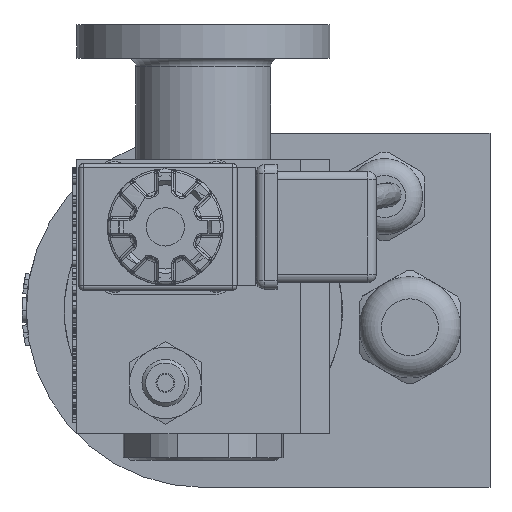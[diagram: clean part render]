
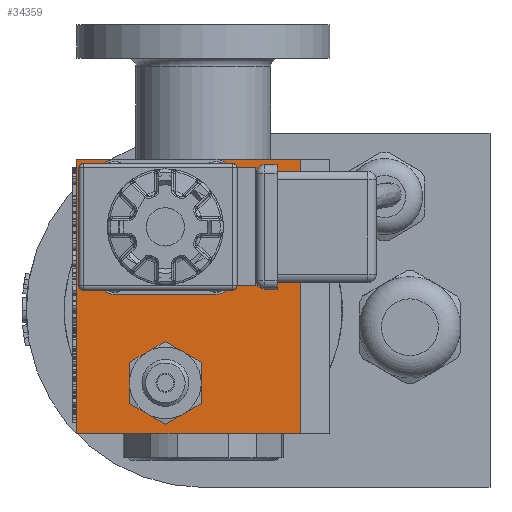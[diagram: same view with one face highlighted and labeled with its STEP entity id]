
A CAD part, left-side view. The second image highlights one B-rep face of the part: STEP entity #34359.
In plain terms, the highlighted planar face has unit normal (-1, 0, 0).
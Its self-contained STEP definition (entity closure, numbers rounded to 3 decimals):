
#820=CIRCLE('',#35783,8.5);
#821=CIRCLE('',#35785,8.5);
#822=CIRCLE('',#35787,8.5);
#823=CIRCLE('',#35789,8.5);
#824=CIRCLE('',#35791,8.5);
#825=CIRCLE('',#35793,8.5);
#945=CIRCLE('',#36089,3.975);
#946=CIRCLE('',#36090,3.975);
#947=CIRCLE('',#36091,3.975);
#948=CIRCLE('',#36092,3.975);
#2622=FACE_BOUND('',#7006,.T.);
#2623=FACE_BOUND('',#7007,.T.);
#3457=PLANE('',#36088);
#4899=FACE_OUTER_BOUND('',#7005,.T.);
#7005=EDGE_LOOP('',(#29773,#29774,#29775,#29776));
#7006=EDGE_LOOP('',(#29777,#29778,#29779,#29780,#29781,#29782));
#7007=EDGE_LOOP('',(#29783,#29784,#29785,#29786,#29787,#29788,#29789,#29790));
#9740=LINE('',#55802,#12549);
#10026=LINE('',#61988,#12835);
#10030=LINE('',#61994,#12839);
#10051=LINE('',#62160,#12860);
#10102=LINE('',#62623,#12911);
#10103=LINE('',#62627,#12912);
#10104=LINE('',#62631,#12913);
#10105=LINE('',#62635,#12914);
#12549=VECTOR('',#40637,10.);
#12835=VECTOR('',#41583,10.);
#12839=VECTOR('',#41589,10.);
#12860=VECTOR('',#41756,10.);
#12911=VECTOR('',#41919,10.);
#12912=VECTOR('',#41922,10.);
#12913=VECTOR('',#41925,10.);
#12914=VECTOR('',#41928,10.);
#16397=VERTEX_POINT('',#55792);
#16401=VERTEX_POINT('',#55800);
#16586=VERTEX_POINT('',#61363);
#16587=VERTEX_POINT('',#61367);
#16588=VERTEX_POINT('',#61373);
#16591=VERTEX_POINT('',#61384);
#16593=VERTEX_POINT('',#61394);
#16594=VERTEX_POINT('',#61403);
#16754=VERTEX_POINT('',#61985);
#16755=VERTEX_POINT('',#61987);
#16847=VERTEX_POINT('',#62621);
#16848=VERTEX_POINT('',#62622);
#16849=VERTEX_POINT('',#62624);
#16850=VERTEX_POINT('',#62626);
#16851=VERTEX_POINT('',#62628);
#16852=VERTEX_POINT('',#62630);
#16853=VERTEX_POINT('',#62632);
#16854=VERTEX_POINT('',#62634);
#20545=EDGE_CURVE('',#16397,#16401,#9740,.T.);
#20802=EDGE_CURVE('',#16586,#16587,#820,.T.);
#20804=EDGE_CURVE('',#16587,#16588,#821,.T.);
#20808=EDGE_CURVE('',#16591,#16586,#822,.T.);
#20811=EDGE_CURVE('',#16593,#16591,#823,.T.);
#20813=EDGE_CURVE('',#16588,#16594,#824,.T.);
#20816=EDGE_CURVE('',#16594,#16593,#825,.T.);
#21073=EDGE_CURVE('',#16754,#16755,#10026,.T.);
#21077=EDGE_CURVE('',#16754,#16397,#10030,.T.);
#21145=EDGE_CURVE('',#16401,#16755,#10051,.T.);
#21233=EDGE_CURVE('',#16847,#16848,#10102,.T.);
#21234=EDGE_CURVE('',#16848,#16849,#945,.T.);
#21235=EDGE_CURVE('',#16849,#16850,#10103,.T.);
#21236=EDGE_CURVE('',#16850,#16851,#946,.T.);
#21237=EDGE_CURVE('',#16851,#16852,#10104,.T.);
#21238=EDGE_CURVE('',#16852,#16853,#947,.T.);
#21239=EDGE_CURVE('',#16853,#16854,#10105,.T.);
#21240=EDGE_CURVE('',#16854,#16847,#948,.T.);
#29773=ORIENTED_EDGE('',*,*,#21073,.F.);
#29774=ORIENTED_EDGE('',*,*,#21077,.T.);
#29775=ORIENTED_EDGE('',*,*,#20545,.T.);
#29776=ORIENTED_EDGE('',*,*,#21145,.T.);
#29777=ORIENTED_EDGE('',*,*,#20802,.T.);
#29778=ORIENTED_EDGE('',*,*,#20804,.T.);
#29779=ORIENTED_EDGE('',*,*,#20813,.T.);
#29780=ORIENTED_EDGE('',*,*,#20816,.T.);
#29781=ORIENTED_EDGE('',*,*,#20811,.T.);
#29782=ORIENTED_EDGE('',*,*,#20808,.T.);
#29783=ORIENTED_EDGE('',*,*,#21233,.T.);
#29784=ORIENTED_EDGE('',*,*,#21234,.T.);
#29785=ORIENTED_EDGE('',*,*,#21235,.T.);
#29786=ORIENTED_EDGE('',*,*,#21236,.T.);
#29787=ORIENTED_EDGE('',*,*,#21237,.T.);
#29788=ORIENTED_EDGE('',*,*,#21238,.T.);
#29789=ORIENTED_EDGE('',*,*,#21239,.T.);
#29790=ORIENTED_EDGE('',*,*,#21240,.T.);
#34359=ADVANCED_FACE('',(#4899,#2622,#2623),#3457,.T.);
#35783=AXIS2_PLACEMENT_3D('',#61371,#41063,#41064);
#35785=AXIS2_PLACEMENT_3D('',#61378,#41067,#41068);
#35787=AXIS2_PLACEMENT_3D('',#61391,#41071,#41072);
#35789=AXIS2_PLACEMENT_3D('',#61401,#41075,#41076);
#35791=AXIS2_PLACEMENT_3D('',#61408,#41079,#41080);
#35793=AXIS2_PLACEMENT_3D('',#61417,#41083,#41084);
#36088=AXIS2_PLACEMENT_3D('',#62620,#41917,#41918);
#36089=AXIS2_PLACEMENT_3D('',#62625,#41920,#41921);
#36090=AXIS2_PLACEMENT_3D('',#62629,#41923,#41924);
#36091=AXIS2_PLACEMENT_3D('',#62633,#41926,#41927);
#36092=AXIS2_PLACEMENT_3D('',#62636,#41929,#41930);
#40637=DIRECTION('',(0.,0.,-1.));
#41063=DIRECTION('center_axis',(1.,0.,0.));
#41064=DIRECTION('ref_axis',(0.,0.,
1.));
#41067=DIRECTION('center_axis',(1.,0.,0.));
#41068=DIRECTION('ref_axis',(0.,0.,
1.));
#41071=DIRECTION('center_axis',(1.,0.,0.));
#41072=DIRECTION('ref_axis',(0.,0.,
1.));
#41075=DIRECTION('center_axis',(1.,0.,0.));
#41076=DIRECTION('ref_axis',(0.,0.,
1.));
#41079=DIRECTION('center_axis',(1.,0.,0.));
#41080=DIRECTION('ref_axis',(0.,0.,
1.));
#41083=DIRECTION('center_axis',(1.,0.,0.));
#41084=DIRECTION('ref_axis',(0.,0.,
1.));
#41583=DIRECTION('',(0.,0.,-1.));
#41589=DIRECTION('',(0.,1.,0.));
#41756=DIRECTION('',(0.,-1.,0.));
#41917=DIRECTION('center_axis',(-1.,0.,0.));
#41918=DIRECTION('ref_axis',(0.,0.,1.));
#41919=DIRECTION('',(0.,0.,1.));
#41920=DIRECTION('center_axis',(1.,0.,0.));
#41921=DIRECTION('ref_axis',(0.,0.,-1.));
#41922=DIRECTION('',(0.,-1.,0.));
#41923=DIRECTION('center_axis',(1.,0.,0.));
#41924=DIRECTION('ref_axis',(0.,0.,-1.));
#41925=DIRECTION('',(0.,0.,-1.));
#41926=DIRECTION('center_axis',(1.,0.,0.));
#41927=DIRECTION('ref_axis',(0.,0.,-1.));
#41928=DIRECTION('',(0.,1.,0.));
#41929=DIRECTION('center_axis',(1.,0.,0.));
#41930=DIRECTION('ref_axis',(0.,0.,-1.));
#55792=CARTESIAN_POINT('',(-28.,59.5,65.));
#55800=CARTESIAN_POINT('',(-28.,59.5,0.));
#55802=CARTESIAN_POINT('',(-28.,59.5,65.));
#61363=CARTESIAN_POINT('',(-28.,42.75,4.639));
#61367=CARTESIAN_POINT('',(-28.,47.,12.));
#61371=CARTESIAN_POINT('Origin',(-28.,38.5,12.));
#61373=CARTESIAN_POINT('',(-28.,42.75,19.361));
#61378=CARTESIAN_POINT('Origin',(-28.,38.5,12.));
#61384=CARTESIAN_POINT('',(-28.,34.25,4.639));
#61391=CARTESIAN_POINT('Origin',(-28.,38.5,12.));
#61394=CARTESIAN_POINT('',(-28.,30.,12.));
#61401=CARTESIAN_POINT('Origin',(-28.,38.5,12.));
#61403=CARTESIAN_POINT('',(-28.,34.25,19.361));
#61408=CARTESIAN_POINT('Origin',(-28.,38.5,12.));
#61417=CARTESIAN_POINT('Origin',(-28.,38.5,12.));
#61985=CARTESIAN_POINT('',(-28.,6.5,65.));
#61987=CARTESIAN_POINT('',(-28.,6.5,0.));
#61988=CARTESIAN_POINT('',(-28.,6.5,32.5));
#61994=CARTESIAN_POINT('',(-28.,-0.5,65.));
#62160=CARTESIAN_POINT('',(-28.,59.5,0.));
#62620=CARTESIAN_POINT('Origin',(-28.,29.5,32.5));
#62621=CARTESIAN_POINT('',(-28.,54.475,37.));
#62622=CARTESIAN_POINT('',(-28.,54.475,61.));
#62623=CARTESIAN_POINT('',(-28.,54.475,36.52));
#62624=CARTESIAN_POINT('',(-28.,50.5,64.975));
#62625=CARTESIAN_POINT('Origin',(-28.,50.5,61.));
#62626=CARTESIAN_POINT('',(-28.,26.5,64.975));
#62627=CARTESIAN_POINT('',(-28.,50.98,64.975));
#62628=CARTESIAN_POINT('',(-28.,22.525,61.));
#62629=CARTESIAN_POINT('Origin',(-28.,26.5,61.));
#62630=CARTESIAN_POINT('',(-28.,22.525,37.));
#62631=CARTESIAN_POINT('',(-28.,22.525,61.48));
#62632=CARTESIAN_POINT('',(-28.,26.5,33.025));
#62633=CARTESIAN_POINT('Origin',(-28.,26.5,37.));
#62634=CARTESIAN_POINT('',(-28.,50.5,33.025));
#62635=CARTESIAN_POINT('',(-28.,26.02,33.025));
#62636=CARTESIAN_POINT('Origin',(-28.,50.5,37.));
